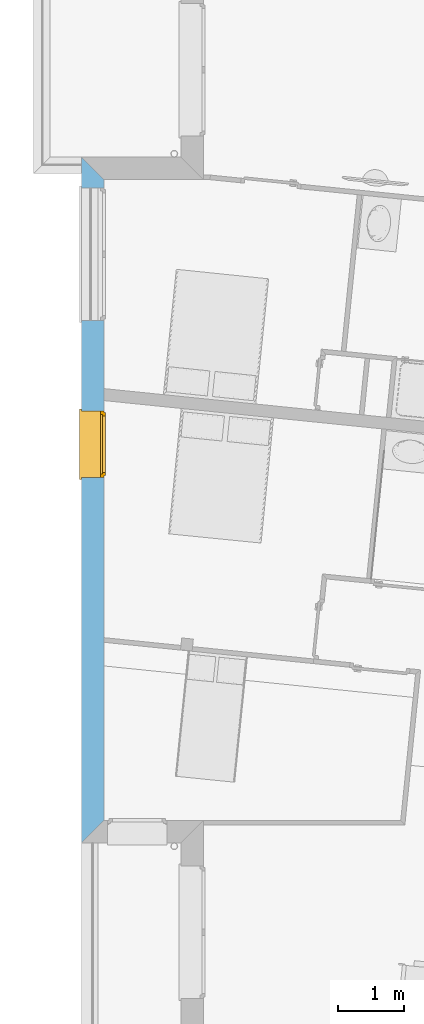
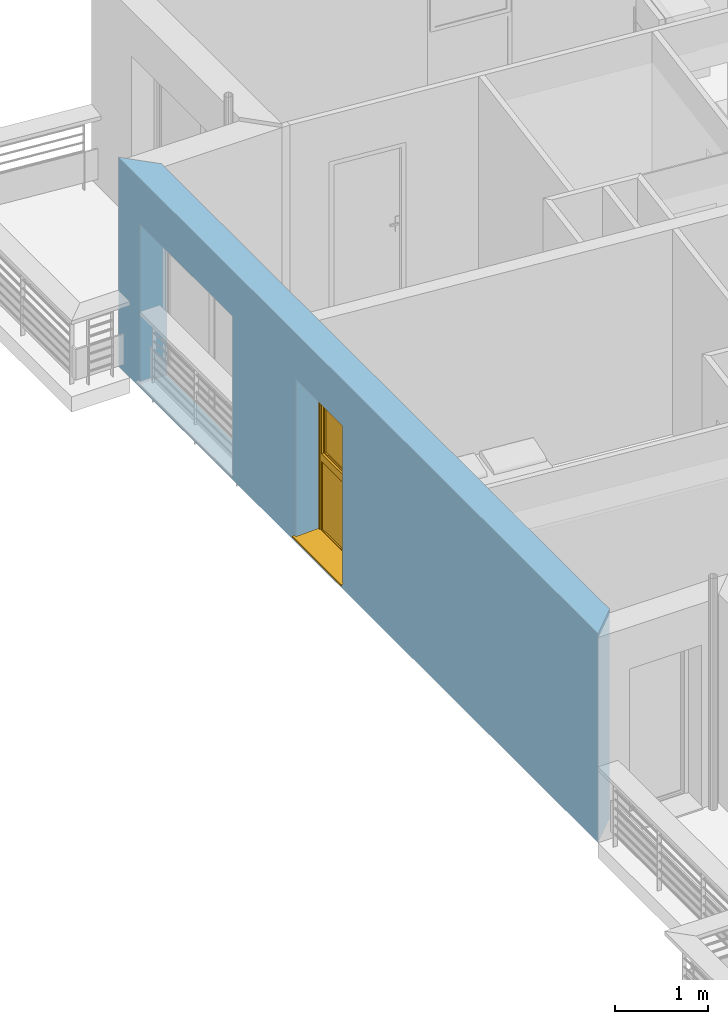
# One storey, part 48 of 164: 1 window, 2 openings, plus 1 element that does not belong to this part.
"""IFC2X3 building model written with IfcOpenShell, lengths in millimetres."""

from ifc_helpers import new_model, entity, si_unit, converted_unit, derived_unit, money_unit, direction, frame, origin_with_axes, place, context, subcontext, project, spatial, polyline, outline, extrude, open_shell, faceted_brep, surface_model, source, transform, mapped, material, layer, layer_set, layer_usage, type_object, element, fill, save


model = new_model("IFC2X3")

# Units and contexts
model_context = context("Model", 3, precision=0.01, world=origin_with_axes(), true_north=direction((0.0, 1.0)))
body_context = subcontext(model_context, "Body", "Model", "MODEL_VIEW")
ifc_project = project(units=[si_unit("LENGTHUNIT", "METRE", prefix="MILLI"), si_unit("AREAUNIT", "SQUARE_METRE"), si_unit("VOLUMEUNIT", "CUBIC_METRE"), converted_unit("PLANEANGLEUNIT", "DEGREE", entity("IfcPlaneAngleMeasure", 0.0174532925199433), si_unit("PLANEANGLEUNIT", "RADIAN"), dimensions=[0, 0, 0, 0, 0, 0, 0]), money_unit("USD"), converted_unit("TIMEUNIT", "Year", entity("IfcTimeMeasure", 31557600.0), si_unit("TIMEUNIT", "SECOND"), dimensions=[0, 0, 1, 0, 0, 0, 0]), si_unit("MASSUNIT", "GRAM", prefix="KILO"), si_unit("THERMODYNAMICTEMPERATUREUNIT", "DEGREE_CELSIUS"), si_unit("LUMINOUSINTENSITYUNIT", "LUMEN"), si_unit("ENERGYUNIT", "JOULE", prefix="MEGA"), derived_unit("THERMALCONDUCTANCEUNIT", [(si_unit("POWERUNIT", "WATT"), 1), (si_unit("LENGTHUNIT", "METRE"), -1), (si_unit("THERMODYNAMICTEMPERATUREUNIT", "KELVIN"), -1)]), derived_unit("SPECIFICHEATCAPACITYUNIT", [(si_unit("ENERGYUNIT", "JOULE"), 1), (si_unit("MASSUNIT", "GRAM", prefix="KILO"), -1), (si_unit("THERMODYNAMICTEMPERATUREUNIT", "KELVIN"), -1)]), derived_unit("MASSDENSITYUNIT", [(si_unit("MASSUNIT", "GRAM", prefix="KILO"), 1), (si_unit("VOLUMEUNIT", "CUBIC_METRE"), -1)])], contexts=[model_context])

# Site, building, storey
site_placement = place(None, origin_with_axes())
site = spatial("IfcSite", under=ifc_project, at=site_placement, Name="Site", CompositionType="ELEMENT")
building_placement = place(site_placement, origin_with_axes())
building = spatial("IfcBuilding", under=site, at=building_placement, Name="Bâtiment", CompositionType="ELEMENT")
storey_placement = place(building_placement, frame((0.0, 0.0, 5750.0), z_axis=(0.0, 0.0, 1.0), x_axis=(1.0, 0.0, 0.0)))
storey = spatial("IfcBuildingStorey", under=building, at=storey_placement, Name="Etage1", CompositionType="ELEMENT", Elevation=5750.0)

# Wall, openings, window
ifc_material_1 = material(Name="Parpaing 312445824")
ifc_layer_1 = layer(ifc_material_1, 180.0, ventilated="UNKNOWN")
ifc_material_2 = material(Name="Isolant styromousse 301821074")
ifc_layer_2 = layer(ifc_material_2, 160.0, ventilated="UNKNOWN")
ifc_layer_set = layer_set([ifc_layer_1, ifc_layer_2], Name="isol int 18+16 0018356637")
ifc_layer_usage = layer_usage(ifc_layer_set, "AXIS2", "POSITIVE", 0.0)
wall_type = type_object("IfcWallType", Name="isol int 18+16 0018356637 340", PredefinedType="NOTDEFINED")
wall_placement = place(storey_placement, frame((2216634.233344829, -607167.3879007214, 0.0), z_axis=(0.0, 0.0, 1.0), x_axis=(0.0, -1.0, 0.0)))
wall = element("IfcWallStandardCase", 1, at=wall_placement, inside=storey, type_object=wall_type, material=ifc_layer_usage, Name="Mur-143", context=body_context, shape_type="SweptSolid", body=[
    extrude(outline(polyline([(0.0, 0.0), (10340.11790760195, 0.0), (10000.11790760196, 340.0000000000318), (340.0000000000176, 340.0000000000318), (0.0, 0.0)])), origin_with_axes(), (0.0, 0.0, 1.0), 2750.0),
])
opening_1_placement = place(wall_placement, frame((4327.743476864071, 2.273736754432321e-10, 49.99999999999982), z_axis=(0.0, 0.0, 1.0), x_axis=(1.0, 0.0, 0.0)))
opening_1 = element("IfcOpeningElement", 2, at=opening_1_placement, cuts=wall, Name="Fen-133", context=body_context, shape_type="Brep", body=[
    faceted_brep([(-499.9999999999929, 290.0000000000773, 2100.0), (-499.9999999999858, 341.0000000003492, 2100.0), (-499.9999999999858, 341.0000000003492, 0.0), (-499.9999999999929, 290.0000000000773, 0.0), (-499.9999999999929, 280.0000000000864, 2100.0), (-499.9999999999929, 280.0000000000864, 2350.0), (-499.9999999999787, 530.0000000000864, 2350.0), (-499.9999999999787, 530.0000000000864, 2100.0), (500.0000000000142, 341.0000000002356, 2100.0), (500.0000000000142, 341.0000000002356, 0.0), (500.0000000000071, 289.9999999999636, 0.0), (500.0, -1.00000000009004, 0.0), (-500.0, -0.9999999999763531, 0.0), (-500.0, -0.9999999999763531, 2100.0), (500.0000000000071, 279.9999999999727, 2100.0), (500.0000000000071, 279.9999999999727, 2350.0), (500.0000000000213, 529.9999999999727, 2350.0), (500.0000000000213, 529.9999999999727, 2100.0), (500.0000000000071, 289.9999999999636, 2100.0), (500.0, -1.00000000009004, 2100.0)], [[[0, 1, 2, 3]], [[1, 0, 4, 5, 6, 7]], [[1, 8, 9, 2]], [[10, 11, 12, 3, 2, 9]], [[4, 0, 3, 12, 13]], [[4, 14, 15, 5]], [[6, 5, 15, 16]], [[7, 6, 16, 17]], [[8, 1, 7, 17]], [[8, 18, 10, 9]], [[18, 14, 19, 11, 10]], [[13, 12, 11, 19]], [[14, 4, 13, 19]], [[18, 8, 17, 16, 15, 14]]]),
])
opening_2_placement = place(wall_placement, frame((1464.217680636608, 1.13686837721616e-10, 49.99999999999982), z_axis=(0.0, 0.0, 1.0), x_axis=(1.0, 0.0, 0.0)))
element("IfcOpeningElement", 3, at=opening_2_placement, cuts=wall, Name="Fen-207", context=body_context, shape_type="Brep", body=[
    faceted_brep([(-999.999999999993, 290.000000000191, 2100.0), (-999.9999999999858, 341.0000000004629, 2100.0), (-999.9999999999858, 341.0000000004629, 0.0), (-999.999999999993, 290.000000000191, 0.0), (-999.999999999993, 280.0000000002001, 2100.0), (-999.999999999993, 280.0000000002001, 2350.0), (-999.9999999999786, 530.0000000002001, 2350.0), (-999.9999999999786, 530.0000000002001, 2100.0), (1000.000000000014, 341.0000000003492, 2100.0), (1000.000000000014, 341.0000000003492, 0.0), (1000.000000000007, 290.0000000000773, 0.0), (1000.0, -0.9999999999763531, 0.0), (-1000.0, -0.9999999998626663, 0.0), (-1000.0, -0.9999999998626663, 2100.0), (1000.000000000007, 280.0000000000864, 2100.0), (1000.000000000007, 280.0000000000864, 2350.0), (1000.000000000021, 530.0000000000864, 2350.0), (1000.000000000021, 530.0000000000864, 2100.0), (1000.000000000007, 290.0000000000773, 2100.0), (1000.0, -0.9999999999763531, 2100.0)], [[[0, 1, 2, 3]], [[1, 0, 4, 5, 6, 7]], [[1, 8, 9, 2]], [[10, 11, 12, 3, 2, 9]], [[4, 0, 3, 12, 13]], [[4, 14, 15, 5]], [[6, 5, 15, 16]], [[7, 6, 16, 17]], [[8, 1, 7, 17]], [[8, 18, 10, 9]], [[18, 14, 19, 11, 10]], [[13, 12, 11, 19]], [[14, 4, 13, 19]], [[18, 8, 17, 16, 15, 14]]]),
])
window_style = type_object("IfcWindowStyle", Name="Fenêtre 27", ConstructionType="NOTDEFINED", OperationType="DOUBLE_PANEL_HORIZONTAL", ParameterTakesPrecedence=False, Sizeable=False)
shared_shape = source(origin_with_axes(), body_context, "Body", "SurfaceModel", [
    surface_model("IfcShellBasedSurfaceModel", [(-500.0, -51.00000000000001, 40.00000000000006), (500.0, -51.00000000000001, 40.0), (500.0, -51.00000000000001, 50.0), (-500.0, -51.00000000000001, 50.00000000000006), (-530.0, -369.9999999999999, 28.96551724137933), (530.0, -369.9999999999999, 28.96551724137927), (530.0, -339.9999999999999, 30.00324289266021), (500.0, -339.9999999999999, 30.00324289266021), (-500.0, -339.9999999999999, 30.00324289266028), (-530.0, -339.9999999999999, 30.00324289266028), (-530.0, -369.9999999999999, 8.96551724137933), (530.0, -369.9999999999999, 8.965517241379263), (-530.0, -359.9999999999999, 18.96551724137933), (530.0, -359.9999999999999, 18.96551724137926)], [open_shell([[[0, 1, 2, 3]], [[4, 5, 6, 7, 1, 0, 8, 9]], [[10, 11, 5, 4]], [[12, 13, 11, 10]]])]),
    faceted_brep([(500.0, -59.99999999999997, 2350.0), (500.0, 190.0, 2350.0), (497.0, 190.0, 2350.0), (497.0, -59.99999999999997, 2350.0), (500.0, -59.99999999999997, 2100.0), (500.0, 190.0, 2100.0), (497.0, 190.0, 2100.0), (497.0, -59.99999999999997, 2100.0)], [[[0, 1, 2, 3]], [[0, 4, 5, 1]], [[1, 5, 6, 2]], [[3, 2, 6, 7]], [[4, 0, 3, 7]], [[5, 4, 7, 6]]]),
    faceted_brep([(-497.0, -59.99999999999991, 2350.0), (-497.0, 190.0000000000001, 2350.0), (-500.0, 190.0000000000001, 2350.0), (-500.0, -59.99999999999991, 2350.0), (-497.0, -59.99999999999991, 2100.0), (-497.0, 190.0000000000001, 2100.0), (-500.0, 190.0000000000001, 2100.0), (-500.0, -59.99999999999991, 2100.0)], [[[0, 1, 2, 3]], [[0, 4, 5, 1]], [[1, 5, 6, 2]], [[3, 2, 6, 7]], [[4, 0, 3, 7]], [[5, 4, 7, 6]]]),
    faceted_brep([(497.0, -60.0, 2100.0), (497.0, -60.0, 2350.0), (-497.0, -59.99999999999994, 2350.0), (-497.0, -59.99999999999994, 2100.0), (497.0, -56.99999999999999, 2100.0), (497.0, -56.99999999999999, 2347.0), (497.0, 187.0, 2347.0), (497.0, 187.0, 2103.0), (497.0, -37.99999999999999, 2103.0), (497.0, -37.99999999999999, 2100.0), (497.0, 190.0, 2100.0), (497.0, 190.0, 2350.0), (-497.0, 190.0000000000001, 2350.0), (-497.0, 190.0000000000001, 2100.0), (-497.0, -37.99999999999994, 2100.0), (-497.0, -37.99999999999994, 2103.0), (-497.0, 187.0000000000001, 2103.0), (-497.0, 187.0000000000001, 2347.0), (-497.0, -56.99999999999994, 2347.0), (-497.0, -56.99999999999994, 2100.0)], [[[0, 1, 2, 3]], [[0, 4, 5, 6, 7, 8, 9, 10, 11, 1]], [[1, 11, 12, 2]], [[3, 2, 12, 13, 14, 15, 16, 17, 18, 19]], [[4, 0, 3, 19]], [[5, 4, 19, 18]], [[6, 5, 18, 17]], [[7, 6, 17, 16]], [[8, 7, 16, 15]], [[9, 8, 15, 14]], [[10, 9, 14, 13]], [[11, 10, 13, 12]]]),
    faceted_brep([(494.0, -40.37442957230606, 2206.419644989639), (494.0, -35.54711042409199, 2188.403844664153), (494.0, -27.66471820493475, 2171.5), (494.0, -16.9667554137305, 2156.22172576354), (494.0, -3.778274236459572, 2143.03324458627), (494.0, 11.50000000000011, 2132.335281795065), (494.0, 28.40384466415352, 2124.452889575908), (494.0, 46.4196449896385, 2119.625570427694), (494.0, 65.00000000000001, 2118.0), (494.0, 83.58035501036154, 2119.625570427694), (494.0, 101.5961553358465, 2124.452889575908), (494.0, 118.4999999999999, 2132.335281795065), (494.0, 133.7782742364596, 2143.03324458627), (494.0, 146.9667554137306, 2156.22172576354), (494.0, 157.6647182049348, 2171.5), (494.0, 165.5471104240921, 2188.403844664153), (494.0, 170.3744295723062, 2206.419644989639), (494.0, 171.9999999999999, 2225.0), (494.0, 170.3744295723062, 2243.580355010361), (494.0, 165.5471104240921, 2261.596155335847), (494.0, 157.6647182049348, 2278.5), (494.0, 146.9667554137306, 2293.77827423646), (494.0, 133.7782742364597, 2306.966755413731), (494.0, 118.5, 2317.664718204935), (494.0, 101.5961553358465, 2325.547110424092), (494.0, 83.58035501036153, 2330.374429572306), (494.0, 64.99999999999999, 2332.0), (494.0, 46.41964498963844, 2330.374429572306), (494.0, 28.40384466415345, 2325.547110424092), (494.0, 11.5, 2317.664718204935), (494.0, -3.778274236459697, 2306.966755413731), (494.0, -16.96675541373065, 2293.77827423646), (494.0, -27.66471820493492, 2278.5), (494.0, -35.54711042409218, 2261.596155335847), (494.0, -40.37442957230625, 2243.580355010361), (494.0, -41.99999999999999, 2225.0), (-494.0, -40.374429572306, 2206.419644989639), (-494.0, -35.54711042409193, 2188.403844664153), (-494.0, -27.6647182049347, 2171.5), (-494.0, -16.96675541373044, 2156.22172576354), (-494.0, -3.778274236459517, 2143.03324458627), (-494.0, 11.50000000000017, 2132.335281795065), (-494.0, 28.40384466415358, 2124.452889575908), (-494.0, 46.41964498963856, 2119.625570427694), (-494.0, 65.00000000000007, 2118.0), (-494.0, 83.5803550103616, 2119.625570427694), (-494.0, 101.5961553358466, 2124.452889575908), (-494.0, 118.5, 2132.335281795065), (-494.0, 133.7782742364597, 2143.03324458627), (-494.0, 146.9667554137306, 2156.22172576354), (-494.0, 157.6647182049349, 2171.5), (-494.0, 165.5471104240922, 2188.403844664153), (-494.0, 170.3744295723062, 2206.419644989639), (-494.0, 172.0, 2225.0), (-494.0, 170.3744295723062, 2243.580355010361), (-494.0, 165.5471104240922, 2261.596155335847), (-494.0, 157.6647182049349, 2278.5), (-494.0, 146.9667554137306, 2293.77827423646), (-494.0, 133.7782742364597, 2306.966755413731), (-494.0, 118.5, 2317.664718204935), (-494.0, 101.5961553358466, 2325.547110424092), (-494.0, 83.58035501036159, 2330.374429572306), (-494.0, 65.00000000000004, 2332.0), (-494.0, 46.41964498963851, 2330.374429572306), (-494.0, 28.40384466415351, 2325.547110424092), (-494.0, 11.50000000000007, 2317.664718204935), (-494.0, -3.778274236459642, 2306.966755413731), (-494.0, -16.96675541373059, 2293.77827423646), (-494.0, -27.66471820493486, 2278.5), (-494.0, -35.54711042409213, 2261.596155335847), (-494.0, -40.37442957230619, 2243.580355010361), (-494.0, -41.99999999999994, 2225.0)], [[[0, 1, 2, 3, 4, 5, 6, 7, 8, 9, 10, 11, 12, 13, 14, 15, 16, 17, 18, 19, 20, 21, 22, 23, 24, 25, 26, 27, 28, 29, 30, 31, 32, 33, 34, 35]], [[1, 0, 36, 37]], [[2, 1, 37, 38]], [[3, 2, 38, 39]], [[4, 3, 39, 40]], [[5, 4, 40, 41]], [[6, 5, 41, 42]], [[7, 6, 42, 43]], [[8, 7, 43, 44]], [[9, 8, 44, 45]], [[10, 9, 45, 46]], [[11, 10, 46, 47]], [[12, 11, 47, 48]], [[13, 12, 48, 49]], [[14, 13, 49, 50]], [[15, 14, 50, 51]], [[16, 15, 51, 52]], [[17, 16, 52, 53]], [[18, 17, 53, 54]], [[19, 18, 54, 55]], [[20, 19, 55, 56]], [[21, 20, 56, 57]], [[22, 21, 57, 58]], [[23, 22, 58, 59]], [[24, 23, 59, 60]], [[25, 24, 60, 61]], [[26, 25, 61, 62]], [[27, 26, 62, 63]], [[28, 27, 63, 64]], [[29, 28, 64, 65]], [[30, 29, 65, 66]], [[31, 30, 66, 67]], [[32, 31, 67, 68]], [[33, 32, 68, 69]], [[34, 33, 69, 70]], [[35, 34, 70, 71]], [[0, 35, 71, 36]], [[36, 71, 70, 69, 68, 67, 66, 65, 64, 63, 62, 61, 60, 59, 58, 57, 56, 55, 54, 53, 52, 51, 50, 49, 48, 47, 46, 45, 44, 43, 42, 41, 40, 39, 38, 37]]]),
    faceted_brep([(-500.0, -34.99999999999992, 30.0), (-500.0, -59.99999999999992, 30.0), (-500.0, -59.99999999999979, 2100.0), (-500.0, -34.99999999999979, 2100.0), (-475.0, -34.99999999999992, 30.0), (-475.0, -37.99999999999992, 30.0), (-497.0, -37.99999999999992, 30.0), (-497.0, -56.99999999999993, 30.0), (-475.0, -56.99999999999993, 30.0), (-475.0, -59.99999999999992, 30.0), (-475.0, -59.99999999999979, 2100.0), (-475.0, -56.99999999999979, 2100.0), (-497.0, -56.99999999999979, 2100.0), (-497.0, -37.99999999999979, 2100.0), (-475.0, -37.99999999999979, 2100.0), (-475.0, -34.99999999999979, 2100.0)], [[[0, 1, 2, 3]], [[0, 4, 5, 6, 7, 8, 9, 1]], [[1, 9, 10, 2]], [[3, 2, 10, 11, 12, 13, 14, 15]], [[4, 0, 3, 15]], [[5, 4, 15, 14]], [[6, 5, 14, 13]], [[7, 6, 13, 12]], [[8, 7, 12, 11]], [[9, 8, 11, 10]]]),
    faceted_brep([(500.0, -34.99999999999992, 30.0), (500.0, -34.99999999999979, 2100.0), (500.0, -59.99999999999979, 2100.0), (500.0, -59.99999999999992, 30.0), (475.0, -34.99999999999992, 30.0), (475.0, -34.99999999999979, 2100.0), (475.0, -37.99999999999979, 2100.0), (497.0, -37.99999999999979, 2100.0), (497.0, -56.99999999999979, 2100.0), (475.0, -56.99999999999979, 2100.0), (475.0, -59.99999999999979, 2100.0), (475.0, -59.99999999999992, 30.0), (475.0, -56.99999999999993, 30.0), (497.0, -56.99999999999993, 30.0), (497.0, -37.99999999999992, 30.0), (475.0, -37.99999999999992, 30.0)], [[[0, 1, 2, 3]], [[4, 5, 1, 0]], [[1, 5, 6, 7, 8, 9, 10, 2]], [[3, 2, 10, 11]], [[0, 3, 11, 12, 13, 14, 15, 4]], [[15, 6, 5, 4]], [[14, 7, 6, 15]], [[13, 8, 7, 14]], [[12, 9, 8, 13]], [[11, 10, 9, 12]]]),
    faceted_brep([(-497.0, -46.66666666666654, 2225.0), (497.0, -46.6666666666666, 2225.0), (497.0, -46.6666666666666, 2216.666666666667), (-497.0, -46.66666666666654, 2216.666666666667), (-497.0, -51.66666666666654, 2225.0), (497.0, -51.6666666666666, 2225.0), (497.0, -51.6666666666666, 2216.666666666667), (497.0, -49.99999999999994, 2200.0), (497.0, -44.99999999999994, 2200.0), (-497.0, -44.99999999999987, 2200.0), (-497.0, -49.99999999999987, 2200.0), (-497.0, -51.66666666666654, 2216.666666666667)], [[[0, 1, 2, 3]], [[1, 0, 4, 5]], [[1, 5, 6, 7, 8, 2]], [[2, 8, 9, 3]], [[4, 0, 3, 9, 10, 11]], [[6, 5, 4, 11]], [[7, 6, 11, 10]], [[8, 7, 10, 9]]]),
    faceted_brep([(497.0, -44.99999999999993, 2200.0), (497.0, -46.6666666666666, 2183.333333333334), (-497.0, -46.66666666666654, 2183.333333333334), (-497.0, -44.99999999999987, 2200.0), (497.0, -49.99999999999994, 2200.0), (497.0, -51.6666666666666, 2183.333333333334), (497.0, -51.6666666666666, 2166.666666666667), (497.0, -49.99999999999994, 2150.000000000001), (497.0, -44.99999999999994, 2150.000000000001), (497.0, -46.6666666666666, 2166.666666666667), (-497.0, -46.66666666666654, 2166.666666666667), (-497.0, -44.99999999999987, 2150.000000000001), (-497.0, -49.99999999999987, 2150.000000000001), (-497.0, -51.66666666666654, 2166.666666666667), (-497.0, -51.66666666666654, 2183.333333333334), (-497.0, -49.99999999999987, 2200.0)], [[[0, 1, 2, 3]], [[0, 4, 5, 6, 7, 8, 9, 1]], [[1, 9, 10, 2]], [[3, 2, 10, 11, 12, 13, 14, 15]], [[4, 0, 3, 15]], [[5, 4, 15, 14]], [[6, 5, 14, 13]], [[7, 6, 13, 12]], [[8, 7, 12, 11]], [[9, 8, 11, 10]]]),
    faceted_brep([(497.0, -44.99999999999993, 2150.000000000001), (497.0, -46.6666666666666, 2133.333333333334), (-497.0, -46.66666666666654, 2133.333333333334), (-497.0, -44.99999999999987, 2150.000000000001), (497.0, -49.99999999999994, 2150.000000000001), (497.0, -51.6666666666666, 2133.333333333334), (497.0, -51.6666666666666, 2116.666666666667), (497.0, -49.99999999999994, 2100.000000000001), (497.0, -44.99999999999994, 2100.000000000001), (497.0, -46.6666666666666, 2116.666666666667), (-497.0, -46.66666666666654, 2116.666666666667), (-497.0, -44.99999999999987, 2100.000000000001), (-497.0, -49.99999999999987, 2100.000000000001), (-497.0, -51.66666666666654, 2116.666666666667), (-497.0, -51.66666666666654, 2133.333333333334), (-497.0, -49.99999999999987, 2150.000000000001)], [[[0, 1, 2, 3]], [[0, 4, 5, 6, 7, 8, 9, 1]], [[1, 9, 10, 2]], [[3, 2, 10, 11, 12, 13, 14, 15]], [[4, 0, 3, 15]], [[5, 4, 15, 14]], [[6, 5, 14, 13]], [[7, 6, 13, 12]], [[8, 7, 12, 11]], [[9, 8, 11, 10]]]),
    faceted_brep([(475.0000000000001, 0.0, 2050.0), (475.0000000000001, -25.00000000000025, 2050.0), (450.0, -25.00000000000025, 2050.0), (450.0, -50.00000000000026, 2050.0), (500.0, -50.00000000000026, 2050.0), (500.0, 0.0, 2050.0), (475.0000000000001, 0.0, 1025.0), (475.0000000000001, -25.00000000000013, 1025.0), (450.0, -25.00000000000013, 1050.0), (450.0, -25.00000000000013, 1025.0), (450.0, -50.00000000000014, 1050.0), (450.0, -50.00000000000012, 950.0), (450.0, -50.00000000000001, 50.00000000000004), (500.0, -50.00000000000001, 50.00000000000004), (500.0, 0.0, 50.00000000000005), (450.0, 0.0, 50.00000000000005), (450.0, 0.0, 950.0), (450.0, 0.0, 1025.0)], [[[0, 1, 2, 3, 4, 5]], [[1, 0, 6, 7]], [[8, 2, 1, 7, 9]], [[2, 8, 10, 3]], [[10, 11, 12, 13, 4, 3]], [[5, 4, 13, 14]], [[6, 0, 5, 14, 15, 16, 17]], [[6, 17, 9, 7]], [[9, 17, 16, 11, 10, 8]], [[15, 12, 11, 16]], [[14, 13, 12, 15]]]),
    faceted_brep([(-450.0, -25.00000000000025, 2050.0), (-475.0000000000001, -25.00000000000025, 2050.0), (-475.0000000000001, 0.0, 2050.0), (-500.0, 0.0, 2050.0), (-500.0, -50.00000000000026, 2050.0), (-450.0, -50.00000000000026, 2050.0), (-450.0, -25.00000000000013, 1050.0), (-450.0, -25.00000000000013, 1025.0), (-475.0000000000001, -25.00000000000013, 1025.0), (-475.0000000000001, 0.0, 1025.0), (-450.0, 0.0, 1025.0), (-450.0, 0.0, 950.0), (-450.0, 0.0, 50.00000000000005), (-500.0, 0.0, 50.00000000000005), (-500.0, -50.00000000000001, 50.00000000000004), (-450.0, -50.00000000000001, 50.00000000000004), (-450.0, -50.00000000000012, 950.0), (-450.0, -50.00000000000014, 1050.0)], [[[0, 1, 2, 3, 4, 5]], [[1, 0, 6, 7, 8]], [[9, 2, 1, 8]], [[9, 10, 11, 12, 13, 3, 2]], [[13, 14, 4, 3]], [[14, 15, 16, 17, 5, 4]], [[6, 0, 5, 17]], [[7, 6, 17, 16, 11, 10]], [[10, 9, 8, 7]], [[11, 16, 15, 12]], [[12, 15, 14, 13]]]),
    faceted_brep([(450.0, -25.00000000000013, 1050.0), (-450.0, -25.00000000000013, 1050.0), (-450.0, -50.00000000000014, 1050.0), (450.0, -50.00000000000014, 1050.0), (-450.0, -25.00000000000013, 1025.0), (450.0, -25.00000000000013, 1025.0), (-450.0, 0.0, 1025.0), (-450.0, 0.0, 950.0), (-450.0, -50.00000000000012, 950.0), (450.0, -50.00000000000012, 950.0), (450.0, 0.0, 950.0), (450.0, 0.0, 1025.0)], [[[0, 1, 2, 3]], [[4, 1, 0, 5]], [[4, 6, 7, 8, 2, 1]], [[8, 9, 3, 2]], [[5, 0, 3, 9, 10, 11]], [[11, 6, 4, 5]], [[6, 11, 10, 7]], [[10, 9, 8, 7]]]),
    faceted_brep([(475.0000000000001, 0.0, 2050.0), (475.0000000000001, 0.0, 2075.0), (-475.0000000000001, 0.0, 2075.0), (-475.0000000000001, 0.0, 2050.0), (-500.0, 0.0, 2050.0), (-500.0, 0.0, 2100.0), (500.0, 0.0, 2100.0), (500.0, 0.0, 2050.0), (475.0000000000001, -25.00000000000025, 2050.0), (475.0000000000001, -25.00000000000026, 2075.0), (-475.0000000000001, -25.00000000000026, 2075.0), (-475.0000000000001, -25.00000000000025, 2050.0), (-450.0, -25.00000000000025, 2050.0), (-450.0, -50.00000000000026, 2050.0), (-500.0, -50.00000000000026, 2050.0), (-500.0, -50.00000000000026, 2100.0), (500.0, -50.00000000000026, 2100.0), (500.0, -50.00000000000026, 2050.0), (450.0, -50.00000000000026, 2050.0), (450.0, -25.00000000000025, 2050.0)], [[[0, 1, 2, 3, 4, 5, 6, 7]], [[1, 0, 8, 9]], [[2, 1, 9, 10]], [[3, 2, 10, 11]], [[11, 12, 13, 14, 4, 3]], [[4, 14, 15, 5]], [[5, 15, 16, 6]], [[6, 16, 17, 7]], [[8, 0, 7, 17, 18, 19]], [[12, 11, 10, 9, 8, 19]], [[12, 19, 18, 13]], [[14, 13, 18, 17, 16, 15]]]),
    faceted_brep([(450.0, -50.00000000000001, 50.0), (500.0, -50.00000000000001, 50.0), (500.0, 0.0, 50.00000000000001), (450.0, 0.0, 50.00000000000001), (-450.0, -50.00000000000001, 50.0), (-500.0, -50.00000000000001, 50.0), (-500.0, -50.0, 0.0), (500.0, -50.0, 0.0), (500.0, 0.0, 0.0), (-500.0, 0.0, 0.0), (-500.0, 0.0, 50.00000000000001), (-450.0, 0.0, 50.00000000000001)], [[[0, 1, 2, 3]], [[0, 4, 5, 6, 7, 1]], [[1, 7, 8, 2]], [[3, 2, 8, 9, 10, 11]], [[4, 0, 3, 11]], [[5, 4, 11, 10]], [[6, 5, 10, 9]], [[7, 6, 9, 8]]]),
    faceted_brep([(425.0000000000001, -25.00000000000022, 2025.0), (475.0000000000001, -25.00000000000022, 2025.0), (475.0000000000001, 24.99999999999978, 2025.0), (425.0000000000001, 24.99999999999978, 2025.0), (425.0000000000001, -25.00000000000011, 1075.0), (475.0000000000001, -25.0000000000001, 1075.0), (475.0000000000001, 24.9999999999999, 1075.0), (425.0000000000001, 24.9999999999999, 1075.0)], [[[0, 1, 2, 3]], [[0, 4, 5, 1]], [[1, 5, 6, 2]], [[3, 2, 6, 7]], [[4, 0, 3, 7]], [[5, 4, 7, 6]]]),
    faceted_brep([(-425.0000000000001, -25.00000000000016, 1075.0), (-475.0000000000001, -25.00000000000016, 1075.0), (-475.0000000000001, 24.99999999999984, 1075.0), (-425.0000000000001, 24.99999999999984, 1075.0), (-425.0000000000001, -25.00000000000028, 2025.0), (-475.0000000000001, -25.00000000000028, 2025.0), (-475.0000000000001, 24.99999999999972, 2025.0), (-425.0000000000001, 24.99999999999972, 2025.0)], [[[0, 1, 2, 3]], [[0, 4, 5, 1]], [[1, 5, 6, 2]], [[3, 2, 6, 7]], [[4, 0, 3, 7]], [[5, 4, 7, 6]]]),
    faceted_brep([(-475.0000000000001, -25.00000000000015, 1025.0), (-475.0000000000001, -25.00000000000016, 1075.0), (-475.0000000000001, 24.99999999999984, 1075.0), (-475.0000000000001, 24.99999999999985, 1025.0), (475.0000000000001, -25.0000000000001, 1025.0), (475.0000000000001, -25.0000000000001, 1075.0), (425.0000000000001, -25.00000000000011, 1075.0), (-425.0000000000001, -25.00000000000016, 1075.0), (-425.0000000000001, 24.99999999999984, 1075.0), (425.0000000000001, 24.9999999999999, 1075.0), (475.0000000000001, 24.9999999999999, 1075.0), (475.0000000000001, 24.9999999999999, 1025.0)], [[[0, 1, 2, 3]], [[0, 4, 5, 6, 7, 1]], [[1, 7, 8, 2]], [[3, 2, 8, 9, 10, 11]], [[4, 0, 3, 11]], [[5, 4, 11, 10]], [[6, 5, 10, 9]], [[7, 6, 9, 8]]]),
    faceted_brep([(475.0000000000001, -25.00000000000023, 2075.0), (475.0000000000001, -25.00000000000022, 2025.0), (475.0000000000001, 24.99999999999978, 2025.0), (475.0000000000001, 24.99999999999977, 2075.0), (-475.0000000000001, -25.00000000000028, 2075.0), (-475.0000000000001, -25.00000000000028, 2025.0), (-425.0000000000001, -25.00000000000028, 2025.0), (425.0000000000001, -25.00000000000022, 2025.0), (425.0000000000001, 24.99999999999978, 2025.0), (-425.0000000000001, 24.99999999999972, 2025.0), (-475.0000000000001, 24.99999999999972, 2025.0), (-475.0000000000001, 24.99999999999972, 2075.0)], [[[0, 1, 2, 3]], [[0, 4, 5, 6, 7, 1]], [[1, 7, 8, 2]], [[3, 2, 8, 9, 10, 11]], [[4, 0, 3, 11]], [[5, 4, 11, 10]], [[6, 5, 10, 9]], [[7, 6, 9, 8]]]),
    surface_model("IfcShellBasedSurfaceModel", [(425.0000000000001, -10.00000000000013, 1075.0), (425.0000000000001, -10.00000000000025, 2025.0), (-425.0000000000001, -10.00000000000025, 2025.0), (-425.0000000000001, -10.00000000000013, 1075.0)], [open_shell([[[0, 1, 2, 3]]])]),
    surface_model("IfcShellBasedSurfaceModel", [(425.0000000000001, 9.999999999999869, 1075.0), (-425.0000000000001, 9.999999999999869, 1075.0), (-425.0000000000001, 9.999999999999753, 2025.0), (425.0000000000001, 9.999999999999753, 2025.0)], [open_shell([[[0, 1, 2, 3]]])]),
    surface_model("IfcShellBasedSurfaceModel", [(450.0, -35.0, 49.99999999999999), (450.0, -35.00000000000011, 950.0), (-450.0, -35.00000000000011, 950.0), (-450.0, -35.0, 49.99999999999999)], [open_shell([[[0, 1, 2, 3]]])]),
    surface_model("IfcShellBasedSurfaceModel", [(450.0, -15.0, 49.99999999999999), (-450.0, -15.0, 49.99999999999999), (-450.0, -15.00000000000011, 950.0), (450.0, -15.00000000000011, 950.0)], [open_shell([[[0, 1, 2, 3]]])]),
])
window_placement = place(opening_1_placement, frame((-499.9999999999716, 2.273736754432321e-10, 0.0), z_axis=(0.0, 0.0, 1.0), x_axis=(1.0, 0.0, 0.0)))
window = element("IfcWindow", 4, at=window_placement, inside=storey, type_object=window_style, Name="Fen-133", OverallHeight=2100.0, OverallWidth=1000.0, context=body_context, shape_type="MappedRepresentation", body=[
    mapped(shared_shape, transform((500.0000000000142, 339.9999999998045, 0.0))),
])
fill(opening_1, window)

save(model, "model.ifc")
